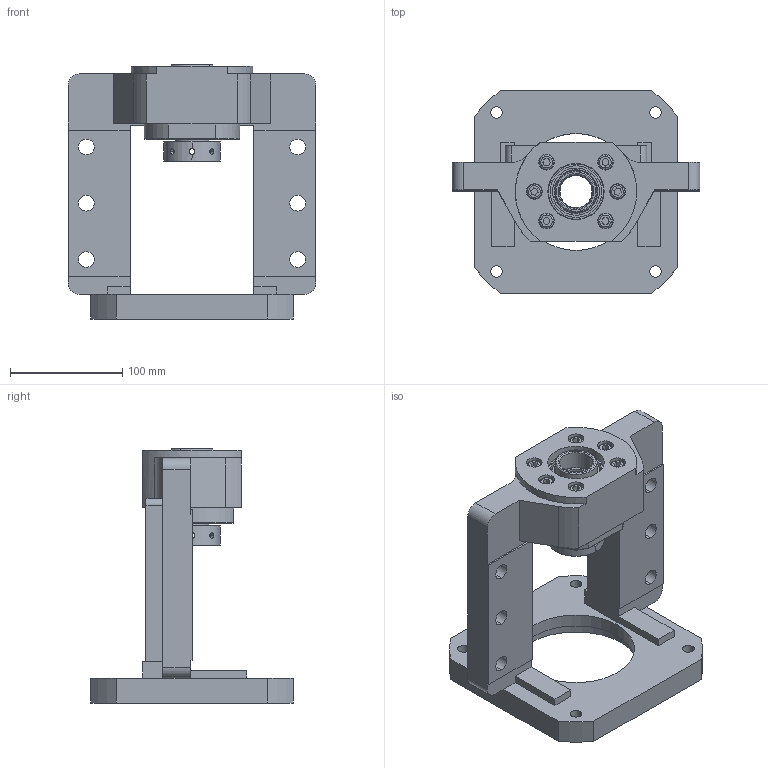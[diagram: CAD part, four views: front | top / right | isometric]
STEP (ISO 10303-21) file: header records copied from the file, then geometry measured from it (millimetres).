
FILE_DESCRIPTION (( 'STEP AP203' ), '1' );
FILE_NAME ('MBCS30L-H.STEP', '2024-10-18T05:54:23', ( '' ), ( '' ), 'SwSTEP 2.0', 'SolidWorks 2018', '' );
FILE_SCHEMA (( 'CONFIG_CONTROL_DESIGN' ));
Length unit declared in the file: millimetre
Products named in the file (1): MBCS30L-H
Bounding box: 220 x 180 x 226 mm (x, y, z)
Surface area: 215416.5 mm2 (no closed solid volume)
Topology: 0 solids, 22 shells, 330 faces, 931 edges, 614 vertices
Faces by surface type: cylinder 125, plane 117, cone 60, torus 26, bspline 2
Entity records: 14856 total; most frequent: CARTESIAN_POINT 6220, DIRECTION 1859, ORIENTED_EDGE 1627, EDGE_CURVE 923, AXIS2_PLACEMENT_3D 717, VERTEX_POINT 614, VECTOR 425, LINE 425
